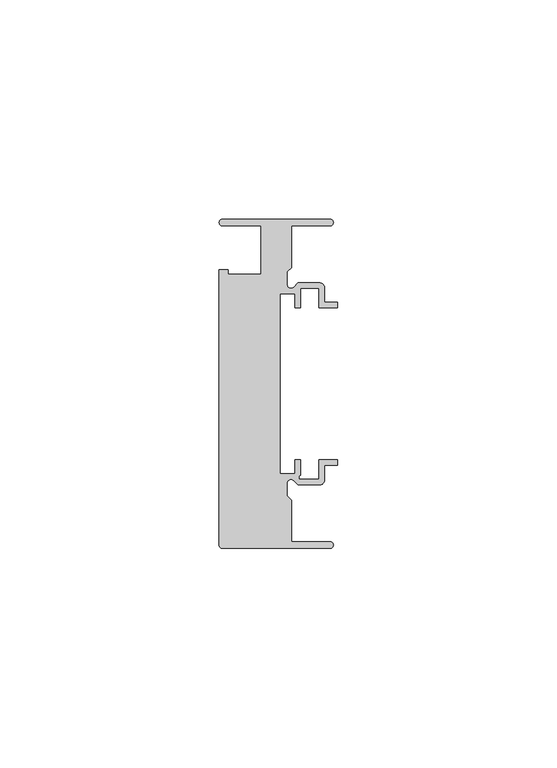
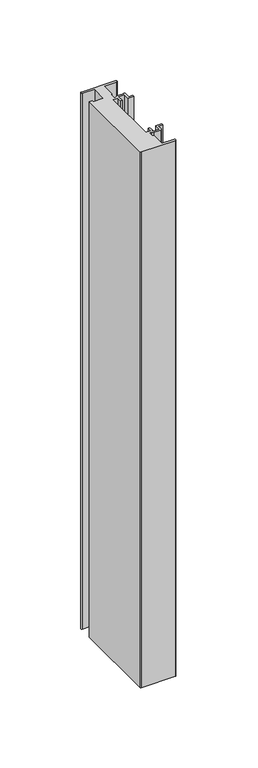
"""IFC4 building model written with IfcOpenShell, lengths in millimetres: member geometry, Прямоугольный импост : 5-AMG-1-Профиль 26Х75 Низ Л."""

import ifcopenshell
import ifcopenshell.guid

model = None  # the IFC model being written
_history = None  # IfcOwnerHistory: only IFC2X3 demands one
_inside = {}  # id of a spatial element -> (the spatial element, [elements in it])
_under = {}  # id of a project, library or spatial element -> (it, [spatial elements below it])
_declared = {}  # id of a project -> (the project, [libraries it declares])
_typed = {}  # id of a type object -> (the type object, [elements of that type])
_made_of = {}  # id of a material, layer set ... -> (it, [elements and type objects made of it])


def new_model(schema):
    """Start an empty IFC model of exactly this schema.

    Asked for "IFC4X3", IfcOpenShell would pick the latest addendum, in which some entities
    have other attributes; the version numbers below select the first issue.
    IFC2X3 requires an IfcOwnerHistory on every rooted entity: one is made here for all.
    """
    global model, _history
    if schema == "IFC4X3":
        model = ifcopenshell.file(schema_version=(4, 3, 0, 0))
    else:
        model = ifcopenshell.file(schema=schema)
    _inside.clear()
    _under.clear()
    _declared.clear()
    _typed.clear()
    _made_of.clear()
    _history = None
    if model.schema == "IFC2X3":
        org = make("IfcOrganization", Name="unknown")
        user = make(
            "IfcPersonAndOrganization",
            ThePerson=make("IfcPerson", FamilyName="unknown"),
            TheOrganization=org,
        )
        app = make(
            "IfcApplication",
            ApplicationDeveloper=org,
            Version="unknown",
            ApplicationFullName="unknown",
            ApplicationIdentifier="unknown",
        )
        _history = make(
            "IfcOwnerHistory",
            OwningUser=user,
            OwningApplication=app,
            ChangeAction="ADDED",
            CreationDate=0,
        )
    return model


def make(cls, **values):
    """One entity of the class cls with the attributes given. An attribute that is None is left unset."""
    return model.create_entity(
        cls, **{name: value for name, value in values.items() if value is not None}
    )


def rooted(cls, **values):
    """An entity with a GlobalId (a new one), such as an element, a storey or a relation."""
    return make(cls, GlobalId=ifcopenshell.guid.new(), OwnerHistory=_history, **values)


def si_unit(unit_type, name, prefix=None):
    """IfcSIUnit, for example si_unit("LENGTHUNIT", "METRE", prefix="MILLI")."""
    return make("IfcSIUnit", UnitType=unit_type, Prefix=prefix, Name=name)


def assignment(units):
    """IfcUnitAssignment: the units of a project."""
    return None if units is None else make("IfcUnitAssignment", Units=units)


def point(xyz):
    """IfcCartesianPoint."""
    return None if xyz is None else make("IfcCartesianPoint", Coordinates=xyz)


def direction(xyz):
    """IfcDirection."""
    return None if xyz is None else make("IfcDirection", DirectionRatios=xyz)


def frame(location, z_axis=None, x_axis=None):
    """IfcAxis2Placement3D, a coordinate frame: its origin and axes. An axis left out is left unset."""
    return make(
        "IfcAxis2Placement3D",
        Location=point(location),
        Axis=direction(z_axis),
        RefDirection=direction(x_axis),
    )


def frame_2d(location, x_axis=None):
    """IfcAxis2Placement2D, a coordinate frame in the plane: its origin and x axis."""
    return make(
        "IfcAxis2Placement2D", Location=point(location), RefDirection=direction(x_axis)
    )


def origin():
    """The frame at (0, 0, 0) with its axes left unset."""
    return frame((0.0, 0.0, 0.0))


def place(relative_to, where):
    """IfcLocalPlacement: puts the frame where relative to a parent placement (None: the world)."""
    return make(
        "IfcLocalPlacement", PlacementRelTo=relative_to, RelativePlacement=where
    )


def context(
    kind, dimensions, precision=None, world=None, true_north=None, identifier=None
):
    """IfcGeometricRepresentationContext, for example the 3D "Model" context."""
    return make(
        "IfcGeometricRepresentationContext",
        ContextIdentifier=identifier,
        ContextType=kind,
        CoordinateSpaceDimension=dimensions,
        Precision=precision,
        WorldCoordinateSystem=world,
        TrueNorth=true_north,
    )


def project(units=None, contexts=None):
    """IfcProject with its units and contexts."""
    return rooted(
        "IfcProject",
        Name="project",
        RepresentationContexts=contexts,
        UnitsInContext=assignment(units),
    )


def spatial(cls, under=None, at=None, **own):
    """A site, building, storey or space (cls), placed at a placement, below another one or the project."""
    s = rooted(cls, ObjectPlacement=at, **own)
    if under is not None:
        _under.setdefault(under.id(), (under, []))[1].append(s)
    return s


def polyline(points):
    """IfcPolyline through the points."""
    return make("IfcPolyline", Points=[point(p) for p in points])


def circle_curve(where, radius):
    """IfcCircle in the frame where."""
    return make("IfcCircle", Position=where, Radius=radius)


def trimmed(basis, trim1, trim2, sense, master):
    """IfcTrimmedCurve: the piece of a basis curve between two trims."""
    return make(
        "IfcTrimmedCurve",
        BasisCurve=basis,
        Trim1=trim1,
        Trim2=trim2,
        SenseAgreement=sense,
        MasterRepresentation=master,
    )


def segment(curve, same_sense, transition):
    """IfcCompositeCurveSegment."""
    return make(
        "IfcCompositeCurveSegment",
        Transition=transition,
        SameSense=same_sense,
        ParentCurve=curve,
    )


def composite_curve(segments, self_intersect=None):
    """IfcCompositeCurve: segments joined end to end."""
    return make("IfcCompositeCurve", Segments=segments, SelfIntersect=self_intersect)


def outline(outer, holes=None, kind="AREA"):
    """IfcArbitraryClosedProfileDef: a profile drawn as a closed curve; with holes, ...WithVoids."""
    if holes is None:
        return make("IfcArbitraryClosedProfileDef", ProfileType=kind, OuterCurve=outer)
    return make(
        "IfcArbitraryProfileDefWithVoids",
        ProfileType=kind,
        OuterCurve=outer,
        InnerCurves=holes,
    )


def extrude(swept, where, along, depth):
    """IfcExtrudedAreaSolid: the profile swept, set in the frame where, extruded along a direction by depth."""
    return make(
        "IfcExtrudedAreaSolid",
        SweptArea=swept,
        Position=where,
        ExtrudedDirection=direction(along),
        Depth=depth,
    )


def shape(context_of_items, identifier, shape_type, items):
    """IfcShapeRepresentation: the items that make up one representation, for example the "Body"."""
    return make(
        "IfcShapeRepresentation",
        ContextOfItems=context_of_items,
        RepresentationIdentifier=identifier,
        RepresentationType=shape_type,
        Items=items,
    )


def source(mapping_origin, context_of_items, identifier, shape_type, items):
    """IfcRepresentationMap: a shape defined once, which mapped items show again and again."""
    return make(
        "IfcRepresentationMap",
        MappingOrigin=mapping_origin,
        MappedRepresentation=shape(context_of_items, identifier, shape_type, items),
    )


def transform(
    local_origin,
    x_axis=None,
    y_axis=None,
    z_axis=None,
    scale=None,
    scale2=None,
    scale3=None,
    uniform=True,
):
    """IfcCartesianTransformationOperator3D, or its non-uniform kind. x_axis, y_axis, z_axis: its Axis1, 2, 3."""
    if uniform:
        return make(
            "IfcCartesianTransformationOperator3D",
            Axis1=direction(x_axis),
            Axis2=direction(y_axis),
            LocalOrigin=point(local_origin),
            Scale=scale,
            Axis3=direction(z_axis),
        )
    return make(
        "IfcCartesianTransformationOperator3DnonUniform",
        Axis1=direction(x_axis),
        Axis2=direction(y_axis),
        LocalOrigin=point(local_origin),
        Scale=scale,
        Axis3=direction(z_axis),
        Scale2=scale2,
        Scale3=scale3,
    )


def mapped(mapping_source, mapping_target):
    """IfcMappedItem: shows the shape of a source again, moved by a transform."""
    return make(
        "IfcMappedItem", MappingSource=mapping_source, MappingTarget=mapping_target
    )


def made_of(thing, what):
    """Note that an element or type object is made of a material, layer set ...; save() writes the relation."""
    if what is not None:
        _made_of.setdefault(what.id(), (what, []))[1].append(thing)
    return thing


def element(
    cls,
    number,
    at=None,
    inside=None,
    cuts=None,
    type_object=None,
    material=None,
    context=None,
    identifier="Body",
    shape_type=None,
    held_by="IfcProductDefinitionShape",
    body=None,
    shapes=None,
    **own,
):
    """One element of the class cls, such as IfcWall. Its Tag is "e" and its number.

    at: its placement. inside: the storey or other place that contains it. cuts: it is an
    opening in that element (IfcRelVoidsElement). A single representation is given by context,
    identifier, shape_type and body (its items); several are given by shapes. held_by: the class
    of the entity that holds the representations. save() writes the other relations.
    """
    e = rooted(cls, Tag="e%d" % number, ObjectPlacement=at, **own)
    if body is not None:
        shapes = [shape(context, identifier, shape_type, body)]
    if shapes is not None:
        e.Representation = make(held_by, Representations=shapes)
    if inside is not None:
        _inside.setdefault(inside.id(), (inside, []))[1].append(e)
    if cuts is not None:
        rooted(
            "IfcRelVoidsElement", RelatingBuildingElement=cuts, RelatedOpeningElement=e
        )
    if type_object is not None:
        _typed.setdefault(type_object.id(), (type_object, []))[1].append(e)
    return made_of(e, material)


def aggregate(whole, parts):
    """IfcRelAggregates: a whole, such as a stair, and the parts it consists of."""
    return rooted("IfcRelAggregates", RelatingObject=whole, RelatedObjects=parts)


def save(model, path):
    """Write the relations noted so far, then the file.

    IfcRelAggregates (storeys below a building ...), IfcRelContainedInSpatialStructure (elements
    in a storey), IfcRelDefinesByType, IfcRelAssociatesMaterial and IfcRelDeclares: one each for
    every whole, place, type object, material and project.
    """
    for whole, parts in _under.values():
        aggregate(whole, parts)
    for where, things in _inside.values():
        rooted(
            "IfcRelContainedInSpatialStructure",
            RelatedElements=things,
            RelatingStructure=where,
        )
    for kind, things in _typed.values():
        rooted("IfcRelDefinesByType", RelatedObjects=things, RelatingType=kind)
    for what, things in _made_of.values():
        rooted("IfcRelAssociatesMaterial", RelatedObjects=things, RelatingMaterial=what)
    for by, libraries in _declared.values():
        rooted("IfcRelDeclares", RelatingContext=by, RelatedDefinitions=libraries)
    model.write(path)


def member_5bc96a58(model_context):
    return source(origin(), model_context, "Body", "SweptSolid", [
        extrude(outline(composite_curve([segment(trimmed(circle_curve(frame_2d((-1.7, 36.75)), 0.75), [point((-1.7, 37.5))], [point((-1.7, 36.0))], False, "CARTESIAN"), True, "CONTINUOUS"), segment(polyline([(-1.7, 36.0), (-10.5, 36.0), (-10.5, 26.5029437), (-11.5, 25.5029437), (-11.5, 22.6727922)]), True, "CONTINUOUS"), segment(trimmed(circle_curve(frame_2d((-10.6, 22.6727922)), 0.9), [point((-11.5, 22.6727922))], [point((-9.9636039, 22.0363961))], True, "CARTESIAN"), True, "CONTINUOUS"), segment(polyline([(-9.9636039, 22.0363961), (-9.0, 23.0), (-4.0, 23.0)]), True, "CONTINUOUS"), segment(trimmed(circle_curve(frame_2d((-4.0, 22.0)), 1.0), [point((-4.0, 23.0))], [point((-3.0, 22.0))], False, "CARTESIAN"), True, "CONTINUOUS"), segment(polyline([(-3.0, 22.0), (-3.0, 18.55), (0.0, 18.55), (0.0, 17.35), (-4.2, 17.35), (-4.2, 21.8), (-8.45, 21.8), (-8.45, 17.35), (-9.65, 17.35), (-9.65, 20.55), (-13.15, 20.55), (-13.15, -20.55), (-9.65, -20.55), (-9.65, -17.35), (-8.45, -17.35), (-8.45, -20.8470563)]), True, "CONTINUOUS"), segment(trimmed(circle_curve(frame_2d((-8.3343131, -21.3314262)), 0.4979937), [point((-8.45, -20.8470563))], [point((-8.5029437, -21.8))], True, "CARTESIAN"), True, "CONTINUOUS"), segment(polyline([(-8.5029437, -21.8), (-4.2, -21.8), (-4.2, -17.35), (0.0, -17.35), (0.0, -18.55), (-3.0, -18.55), (-3.0, -22.0)]), True, "CONTINUOUS"), segment(trimmed(circle_curve(frame_2d((-4.0, -22.0)), 1.0), [point((-3.0, -22.0))], [point((-4.0, -23.0))], False, "CARTESIAN"), True, "CONTINUOUS"), segment(polyline([(-4.0, -23.0), (-9.0, -23.0), (-9.9636039, -22.0363961)]), True, "CONTINUOUS"), segment(trimmed(circle_curve(frame_2d((-10.6, -22.6727922)), 0.9), [point((-9.9636039, -22.0363961))], [point((-11.5, -22.6727922))], True, "CARTESIAN"), True, "CONTINUOUS"), segment(polyline([(-11.5, -22.6727922), (-11.5, -25.5029437), (-10.5, -26.5029437), (-10.5, -36.0), (-1.7, -36.0)]), True, "CONTINUOUS"), segment(trimmed(circle_curve(frame_2d((-1.7, -36.75)), 0.75), [point((-1.7, -36.0))], [point((-1.7, -37.5))], False, "CARTESIAN"), True, "CONTINUOUS"), segment(polyline([(-1.7, -37.5), (-26.25, -37.5)]), True, "CONTINUOUS"), segment(trimmed(circle_curve(frame_2d((-26.25, -36.75)), 0.75), [point((-26.25, -37.5))], [point((-27.0, -36.75))], False, "CARTESIAN"), True, "CONTINUOUS"), segment(polyline([(-27.0, -36.75), (-27.0, 26.0), (-24.9359877, 26.0), (-24.9359877, 25.0), (-17.5, 25.0), (-17.5, 36.0), (-26.25, 36.0)]), True, "CONTINUOUS"), segment(trimmed(circle_curve(frame_2d((-26.25, 36.75)), 0.75), [point((-26.25, 36.0))], [point((-26.25, 37.5))], False, "CARTESIAN"), True, "CONTINUOUS"), segment(polyline([(-26.25, 37.5), (-1.7, 37.5)]), True, "CONTINUOUS")], self_intersect=False)), frame((0.0, 0.0, -408.0), z_axis=(0.0, 0.0, 1.0), x_axis=(1.0, 0.0, 0.0)), (0.0, 0.0, 1.0), 408.0),
    ])


if __name__ == "__main__":
    model = new_model("IFC4")
    model_context = context("Model", 3, world=origin())
    ifc_project = project(units=[si_unit("LENGTHUNIT", "METRE", prefix="MILLI")], contexts=[model_context])
    site = spatial("IfcSite", under=ifc_project)
    building = spatial("IfcBuilding", under=site)
    placement = place(None, origin())
    member_shape = member_5bc96a58(model_context)
    element("IfcMember", 1, ObjectType="Прямоугольный импост : 5-AMG-1-Профиль 26Х75 Низ Л", at=placement, inside=building, context=model_context, shape_type="MappedRepresentation", body=[
        mapped(member_shape, transform((0.0, 0.0, 0.0), x_axis=(1.0, 0.0, 0.0), y_axis=(0.0, 1.0, 0.0), z_axis=(0.0, 0.0, 1.0))),
    ])
    save(model, "model.ifc")
